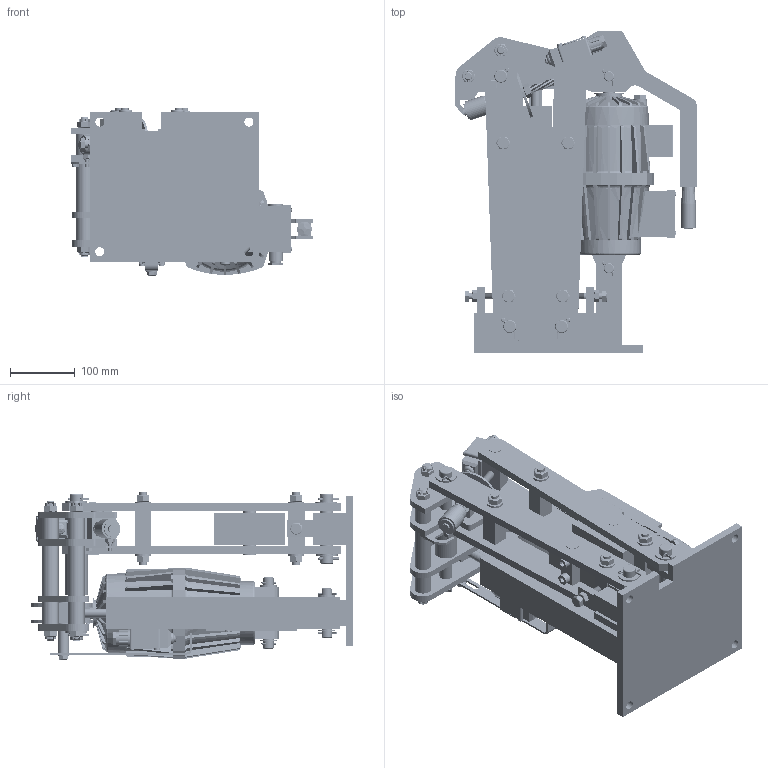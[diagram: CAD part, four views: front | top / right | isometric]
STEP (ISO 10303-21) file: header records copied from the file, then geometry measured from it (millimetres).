
FILE_DESCRIPTION((''),'2;1');
FILE_NAME('DS_160FEA-451L-20_ASM','2021-06-30T',('BOLS'),(''),'CREO PARAMETRIC BY PTC INC, 2018360','CREO PARAMETRIC BY PTC INC, 2018360','');
FILE_SCHEMA(('CONFIG_CONTROL_DESIGN'));
Products named in the file (16): ODB0-TH1-F_O__1_1_MIR; ODB0-TH1-F_O__1_2_MIR; ODB0-TH1-F_O__1_3_MIR; ODB0-TH1-F_O__1_4_MIR; ODB0-TH1-F_O__1_5_MIR; ODB0-TH1-F_O__1_6_MIR; ODB0-TH1-F_O__1_7_MIR; ODB0-TH1-F_O__1_8_MIR; ODB0-TH1-F_O__1_9_MIR; ODB0-TH1-F_O__1_10_MIR; ODB0-TH1-F_O__1_11_MIR; ODB0-TH1-F_O__1_12_MIR; ODB0-TH1-F_O__1_13_MIR; ODB0-TH1-F_O__1_14_MIR; ODB0-TH1-F_O__1_MIR_ASM; DS_160FEA-451L-20_ASM
Assembly tree (15 placements, depth 3):
  DS_160FEA-451L-20_ASM
    ODB0-TH1-F_O__1_MIR_ASM
      ODB0-TH1-F_O__1_1_MIR
      ODB0-TH1-F_O__1_2_MIR
      ODB0-TH1-F_O__1_3_MIR
      ODB0-TH1-F_O__1_4_MIR
      ODB0-TH1-F_O__1_5_MIR
      ODB0-TH1-F_O__1_6_MIR
      ODB0-TH1-F_O__1_7_MIR
      ODB0-TH1-F_O__1_8_MIR
      ODB0-TH1-F_O__1_9_MIR
      ODB0-TH1-F_O__1_10_MIR
      ODB0-TH1-F_O__1_11_MIR
      ODB0-TH1-F_O__1_12_MIR
      ODB0-TH1-F_O__1_13_MIR
      ODB0-TH1-F_O__1_14_MIR
Bounding box: 371.67 x 497.5 x 257.59 mm (x, y, z)
Volume: 485183.5 mm3; surface area: 1398943.9 mm2
Topology: 14 solids, 448 shells, 3247 faces, 11346 edges, 7985 vertices
Faces by surface type: plane 1483, cylinder 958, cone 611, torus 179, bspline 16
Entity records: 188816 total; most frequent: CARTESIAN_POINT 59875, ORIENTED_EDGE 18987, DIRECTION 17236, PRESENTATION_STYLE_ASSIGNMENT 11782, STYLED_ITEM 11782, CURVE_STYLE 11336, EDGE_CURVE 11336, VERTEX_POINT 7983
